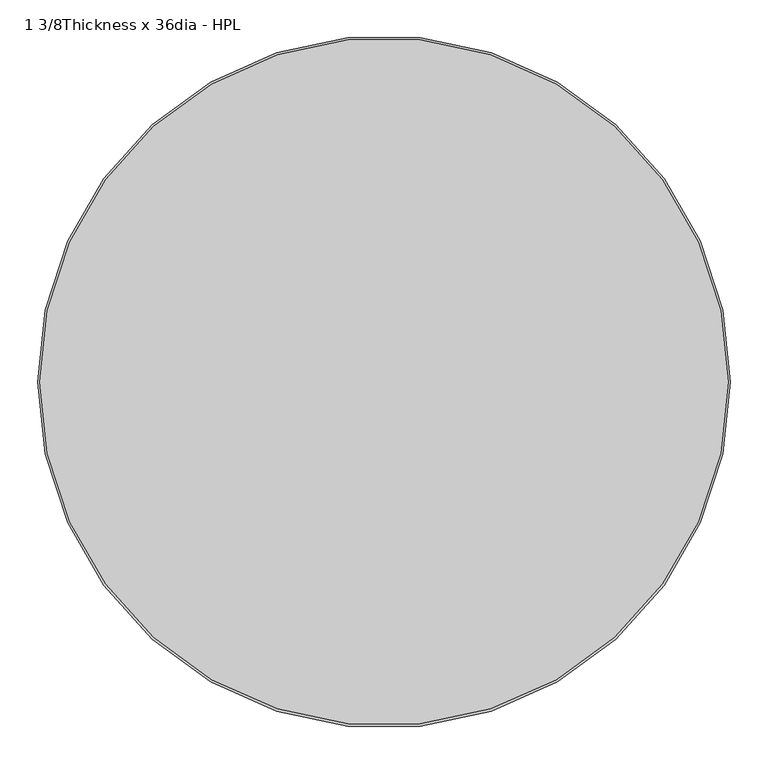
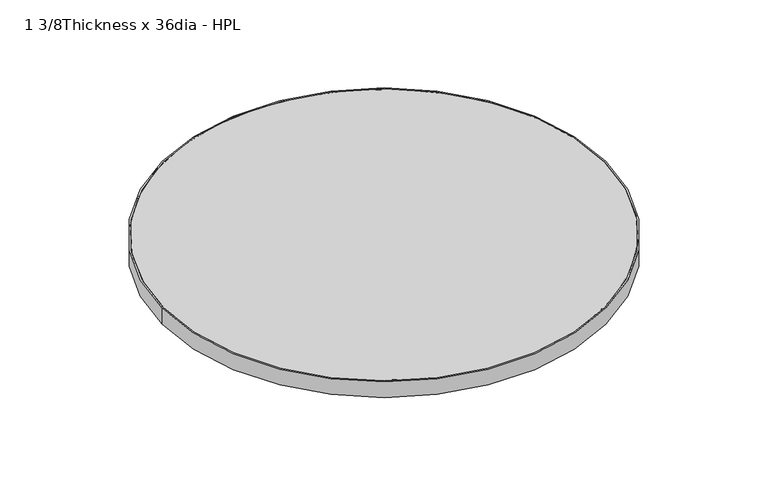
"""IFC4 building model written with IfcOpenShell, lengths in millimetres: furniture geometry, Steelcase - Groupwork - Table - Top - Round : 1 3/8Thickness x 36dia - HPL."""

import ifcopenshell
import ifcopenshell.guid

model = None  # the IFC model being written
_history = None  # IfcOwnerHistory: only IFC2X3 demands one
_inside = {}  # id of a spatial element -> (the spatial element, [elements in it])
_under = {}  # id of a project, library or spatial element -> (it, [spatial elements below it])
_declared = {}  # id of a project -> (the project, [libraries it declares])
_typed = {}  # id of a type object -> (the type object, [elements of that type])
_made_of = {}  # id of a material, layer set ... -> (it, [elements and type objects made of it])


def new_model(schema):
    """Start an empty IFC model of exactly this schema.

    Asked for "IFC4X3", IfcOpenShell would pick the latest addendum, in which some entities
    have other attributes; the version numbers below select the first issue.
    IFC2X3 requires an IfcOwnerHistory on every rooted entity: one is made here for all.
    """
    global model, _history
    if schema == "IFC4X3":
        model = ifcopenshell.file(schema_version=(4, 3, 0, 0))
    else:
        model = ifcopenshell.file(schema=schema)
    _inside.clear()
    _under.clear()
    _declared.clear()
    _typed.clear()
    _made_of.clear()
    _history = None
    if model.schema == "IFC2X3":
        org = make("IfcOrganization", Name="unknown")
        user = make(
            "IfcPersonAndOrganization",
            ThePerson=make("IfcPerson", FamilyName="unknown"),
            TheOrganization=org,
        )
        app = make(
            "IfcApplication",
            ApplicationDeveloper=org,
            Version="unknown",
            ApplicationFullName="unknown",
            ApplicationIdentifier="unknown",
        )
        _history = make(
            "IfcOwnerHistory",
            OwningUser=user,
            OwningApplication=app,
            ChangeAction="ADDED",
            CreationDate=0,
        )
    return model


def make(cls, **values):
    """One entity of the class cls with the attributes given. An attribute that is None is left unset."""
    return model.create_entity(
        cls, **{name: value for name, value in values.items() if value is not None}
    )


def rooted(cls, **values):
    """An entity with a GlobalId (a new one), such as an element, a storey or a relation."""
    return make(cls, GlobalId=ifcopenshell.guid.new(), OwnerHistory=_history, **values)


def si_unit(unit_type, name, prefix=None):
    """IfcSIUnit, for example si_unit("LENGTHUNIT", "METRE", prefix="MILLI")."""
    return make("IfcSIUnit", UnitType=unit_type, Prefix=prefix, Name=name)


def assignment(units):
    """IfcUnitAssignment: the units of a project."""
    return None if units is None else make("IfcUnitAssignment", Units=units)


def point(xyz):
    """IfcCartesianPoint."""
    return None if xyz is None else make("IfcCartesianPoint", Coordinates=xyz)


def direction(xyz):
    """IfcDirection."""
    return None if xyz is None else make("IfcDirection", DirectionRatios=xyz)


def frame(location, z_axis=None, x_axis=None):
    """IfcAxis2Placement3D, a coordinate frame: its origin and axes. An axis left out is left unset."""
    return make(
        "IfcAxis2Placement3D",
        Location=point(location),
        Axis=direction(z_axis),
        RefDirection=direction(x_axis),
    )


def frame_2d(location, x_axis=None):
    """IfcAxis2Placement2D, a coordinate frame in the plane: its origin and x axis."""
    return make(
        "IfcAxis2Placement2D", Location=point(location), RefDirection=direction(x_axis)
    )


def origin():
    """The frame at (0, 0, 0) with its axes left unset."""
    return frame((0.0, 0.0, 0.0))


def origin_2d():
    """The frame at (0, 0) in the plane with its x axis left unset."""
    return frame_2d((0.0, 0.0))


def place(relative_to, where):
    """IfcLocalPlacement: puts the frame where relative to a parent placement (None: the world)."""
    return make(
        "IfcLocalPlacement", PlacementRelTo=relative_to, RelativePlacement=where
    )


def context(
    kind, dimensions, precision=None, world=None, true_north=None, identifier=None
):
    """IfcGeometricRepresentationContext, for example the 3D "Model" context."""
    return make(
        "IfcGeometricRepresentationContext",
        ContextIdentifier=identifier,
        ContextType=kind,
        CoordinateSpaceDimension=dimensions,
        Precision=precision,
        WorldCoordinateSystem=world,
        TrueNorth=true_north,
    )


def project(units=None, contexts=None):
    """IfcProject with its units and contexts."""
    return rooted(
        "IfcProject",
        Name="project",
        RepresentationContexts=contexts,
        UnitsInContext=assignment(units),
    )


def spatial(cls, under=None, at=None, **own):
    """A site, building, storey or space (cls), placed at a placement, below another one or the project."""
    s = rooted(cls, ObjectPlacement=at, **own)
    if under is not None:
        _under.setdefault(under.id(), (under, []))[1].append(s)
    return s


def circle_curve(where, radius):
    """IfcCircle in the frame where."""
    return make("IfcCircle", Position=where, Radius=radius)


def trimmed(basis, trim1, trim2, sense, master):
    """IfcTrimmedCurve: the piece of a basis curve between two trims."""
    return make(
        "IfcTrimmedCurve",
        BasisCurve=basis,
        Trim1=trim1,
        Trim2=trim2,
        SenseAgreement=sense,
        MasterRepresentation=master,
    )


def segment(curve, same_sense, transition):
    """IfcCompositeCurveSegment."""
    return make(
        "IfcCompositeCurveSegment",
        Transition=transition,
        SameSense=same_sense,
        ParentCurve=curve,
    )


def composite_curve(segments, self_intersect=None):
    """IfcCompositeCurve: segments joined end to end."""
    return make("IfcCompositeCurve", Segments=segments, SelfIntersect=self_intersect)


def outline(outer, holes=None, kind="AREA"):
    """IfcArbitraryClosedProfileDef: a profile drawn as a closed curve; with holes, ...WithVoids."""
    if holes is None:
        return make("IfcArbitraryClosedProfileDef", ProfileType=kind, OuterCurve=outer)
    return make(
        "IfcArbitraryProfileDefWithVoids",
        ProfileType=kind,
        OuterCurve=outer,
        InnerCurves=holes,
    )


def extrude(swept, where, along, depth):
    """IfcExtrudedAreaSolid: the profile swept, set in the frame where, extruded along a direction by depth."""
    return make(
        "IfcExtrudedAreaSolid",
        SweptArea=swept,
        Position=where,
        ExtrudedDirection=direction(along),
        Depth=depth,
    )


def shape(context_of_items, identifier, shape_type, items):
    """IfcShapeRepresentation: the items that make up one representation, for example the "Body"."""
    return make(
        "IfcShapeRepresentation",
        ContextOfItems=context_of_items,
        RepresentationIdentifier=identifier,
        RepresentationType=shape_type,
        Items=items,
    )


def source(mapping_origin, context_of_items, identifier, shape_type, items):
    """IfcRepresentationMap: a shape defined once, which mapped items show again and again."""
    return make(
        "IfcRepresentationMap",
        MappingOrigin=mapping_origin,
        MappedRepresentation=shape(context_of_items, identifier, shape_type, items),
    )


def transform(
    local_origin,
    x_axis=None,
    y_axis=None,
    z_axis=None,
    scale=None,
    scale2=None,
    scale3=None,
    uniform=True,
):
    """IfcCartesianTransformationOperator3D, or its non-uniform kind. x_axis, y_axis, z_axis: its Axis1, 2, 3."""
    if uniform:
        return make(
            "IfcCartesianTransformationOperator3D",
            Axis1=direction(x_axis),
            Axis2=direction(y_axis),
            LocalOrigin=point(local_origin),
            Scale=scale,
            Axis3=direction(z_axis),
        )
    return make(
        "IfcCartesianTransformationOperator3DnonUniform",
        Axis1=direction(x_axis),
        Axis2=direction(y_axis),
        LocalOrigin=point(local_origin),
        Scale=scale,
        Axis3=direction(z_axis),
        Scale2=scale2,
        Scale3=scale3,
    )


def mapped(mapping_source, mapping_target):
    """IfcMappedItem: shows the shape of a source again, moved by a transform."""
    return make(
        "IfcMappedItem", MappingSource=mapping_source, MappingTarget=mapping_target
    )


def made_of(thing, what):
    """Note that an element or type object is made of a material, layer set ...; save() writes the relation."""
    if what is not None:
        _made_of.setdefault(what.id(), (what, []))[1].append(thing)
    return thing


def element(
    cls,
    number,
    at=None,
    inside=None,
    cuts=None,
    type_object=None,
    material=None,
    context=None,
    identifier="Body",
    shape_type=None,
    held_by="IfcProductDefinitionShape",
    body=None,
    shapes=None,
    **own,
):
    """One element of the class cls, such as IfcWall. Its Tag is "e" and its number.

    at: its placement. inside: the storey or other place that contains it. cuts: it is an
    opening in that element (IfcRelVoidsElement). A single representation is given by context,
    identifier, shape_type and body (its items); several are given by shapes. held_by: the class
    of the entity that holds the representations. save() writes the other relations.
    """
    e = rooted(cls, Tag="e%d" % number, ObjectPlacement=at, **own)
    if body is not None:
        shapes = [shape(context, identifier, shape_type, body)]
    if shapes is not None:
        e.Representation = make(held_by, Representations=shapes)
    if inside is not None:
        _inside.setdefault(inside.id(), (inside, []))[1].append(e)
    if cuts is not None:
        rooted(
            "IfcRelVoidsElement", RelatingBuildingElement=cuts, RelatedOpeningElement=e
        )
    if type_object is not None:
        _typed.setdefault(type_object.id(), (type_object, []))[1].append(e)
    return made_of(e, material)


def aggregate(whole, parts):
    """IfcRelAggregates: a whole, such as a stair, and the parts it consists of."""
    return rooted("IfcRelAggregates", RelatingObject=whole, RelatedObjects=parts)


def save(model, path):
    """Write the relations noted so far, then the file.

    IfcRelAggregates (storeys below a building ...), IfcRelContainedInSpatialStructure (elements
    in a storey), IfcRelDefinesByType, IfcRelAssociatesMaterial and IfcRelDeclares: one each for
    every whole, place, type object, material and project.
    """
    for whole, parts in _under.values():
        aggregate(whole, parts)
    for where, things in _inside.values():
        rooted(
            "IfcRelContainedInSpatialStructure",
            RelatedElements=things,
            RelatingStructure=where,
        )
    for kind, things in _typed.values():
        rooted("IfcRelDefinesByType", RelatedObjects=things, RelatingType=kind)
    for what, things in _made_of.values():
        rooted("IfcRelAssociatesMaterial", RelatedObjects=things, RelatingMaterial=what)
    for by, libraries in _declared.values():
        rooted("IfcRelDeclares", RelatingContext=by, RelatedDefinitions=libraries)
    model.write(path)


def furniture_1_3_8thickness_x_36dia_hpl_1ba58830(model_context):
    return source(origin(), model_context, "Body", "SweptSolid", [
        extrude(outline(composite_curve([segment(trimmed(circle_curve(origin_2d(), 460.248), [point((-460.248, 0.0))], [point((460.248, 0.0))], False, "CARTESIAN"), True, "CONTINUOUS"), segment(trimmed(circle_curve(origin_2d(), 460.248), [point((460.248, 0.0))], [point((-460.248, 0.0))], False, "CARTESIAN"), True, "CONTINUOUS")], self_intersect=False), holes=[composite_curve([segment(trimmed(circle_curve(origin_2d(), 457.2), [point((457.2, 0.0))], [point((-457.2, 0.0))], True, "CARTESIAN"), True, "CONTINUOUS"), segment(trimmed(circle_curve(origin_2d(), 457.2), [point((-457.2, 0.0))], [point((457.2, 0.0))], True, "CARTESIAN"), True, "CONTINUOUS")], self_intersect=False)]), frame((0.0, 0.0, 695.579), z_axis=(0.0, 0.0, 1.0), x_axis=(1.0, 0.0, 0.0)), (0.0, 0.0, 1.0), 35.052),
        extrude(outline(composite_curve([segment(trimmed(circle_curve(origin_2d(), 457.2), [point((-457.2, 0.0))], [point((457.2, 0.0))], False, "CARTESIAN"), True, "CONTINUOUS"), segment(trimmed(circle_curve(origin_2d(), 457.2), [point((457.2, 0.0))], [point((-457.2, 0.0))], False, "CARTESIAN"), True, "CONTINUOUS")], self_intersect=False)), frame((0.0, 0.0, 695.579), z_axis=(0.0, 0.0, 1.0), x_axis=(1.0, 0.0, 0.0)), (0.0, 0.0, 1.0), 35.052),
    ])


if __name__ == "__main__":
    model = new_model("IFC4")
    model_context = context("Model", 3, world=origin())
    ifc_project = project(units=[si_unit("LENGTHUNIT", "METRE", prefix="MILLI")], contexts=[model_context])
    site = spatial("IfcSite", under=ifc_project)
    building = spatial("IfcBuilding", under=site)
    placement = place(None, origin())
    furniture_1_3_8thickness_x_36dia_hpl_shape = furniture_1_3_8thickness_x_36dia_hpl_1ba58830(model_context)
    element("IfcFurniture", 1, ObjectType="Steelcase - Groupwork - Table - Top - Round : 1 3/8Thickness x 36dia - HPL", at=placement, inside=building, context=model_context, shape_type="MappedRepresentation", body=[
        mapped(furniture_1_3_8thickness_x_36dia_hpl_shape, transform((0.0, 0.0, 0.0), x_axis=(1.0, 0.0, 0.0), y_axis=(0.0, 1.0, 0.0), z_axis=(0.0, 0.0, 1.0))),
    ])
    save(model, "model.ifc")
